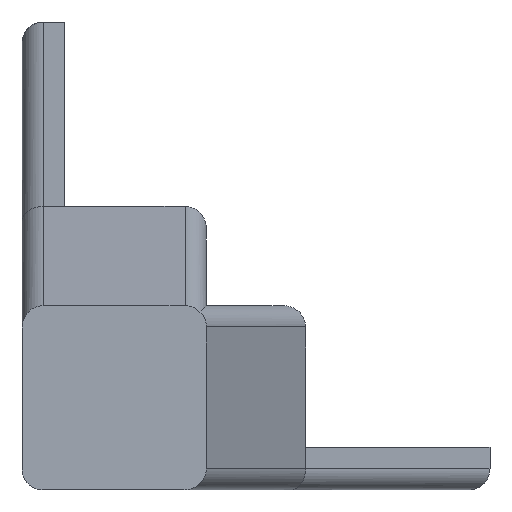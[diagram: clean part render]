
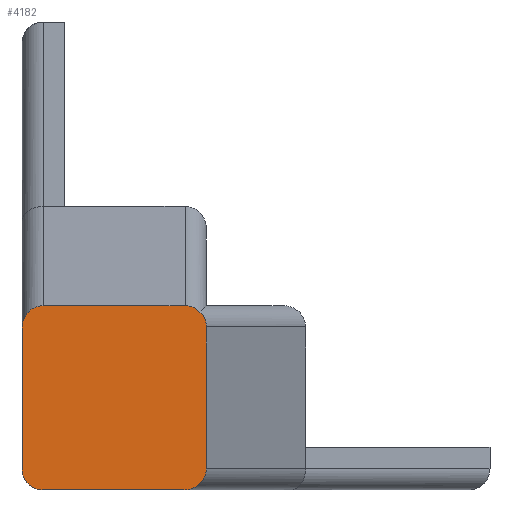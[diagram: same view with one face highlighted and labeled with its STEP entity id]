
A CAD part, front view. The second image highlights one B-rep face of the part: STEP entity #4182.
In plain terms, the highlighted planar face has unit normal (0, -1, 0).
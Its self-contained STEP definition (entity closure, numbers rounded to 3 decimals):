
#20=ELLIPSE('',#4323,3.178,3.);
#24=ELLIPSE('',#4331,3.178,3.);
#28=ELLIPSE('',#4346,3.178,3.);
#34=ELLIPSE('',#4358,3.178,3.);
#100=CIRCLE('',#4341,3.);
#719=FACE_OUTER_BOUND('',#987,.T.);
#987=EDGE_LOOP('',(#3816,#3817,#3818,#3819,#3820,#3821,#3822,#3823,#3824));
#1111=LINE('',#7865,#1432);
#1289=LINE('',#9828,#1610);
#1309=LINE('',#9897,#1630);
#1311=LINE('',#9900,#1632);
#1432=VECTOR('',#4591,10.);
#1610=VECTOR('',#4911,10.);
#1630=VECTOR('',#4993,10.);
#1632=VECTOR('',#4997,10.);
#1784=VERTEX_POINT('',#7853);
#1789=VERTEX_POINT('',#7863);
#2014=VERTEX_POINT('',#9803);
#2015=VERTEX_POINT('',#9804);
#2023=VERTEX_POINT('',#9827);
#2025=VERTEX_POINT('',#9833);
#2030=VERTEX_POINT('',#9851);
#2033=VERTEX_POINT('',#9863);
#2041=VERTEX_POINT('',#9892);
#2261=EDGE_CURVE('',#1784,#1789,#1111,.T.);
#2595=EDGE_CURVE('',#2014,#2015,#20,.T.);
#2607=EDGE_CURVE('',#2015,#2023,#1289,.T.);
#2611=EDGE_CURVE('',#2025,#2014,#24,.T.);
#2619=EDGE_CURVE('',#2030,#1789,#100,.T.);
#2625=EDGE_CURVE('',#2023,#2033,#28,.T.);
#2640=EDGE_CURVE('',#1784,#2041,#34,.T.);
#2642=EDGE_CURVE('',#2030,#2033,#1309,.T.);
#2644=EDGE_CURVE('',#2041,#2025,#1311,.T.);
#3816=ORIENTED_EDGE('',*,*,#2611,.F.);
#3817=ORIENTED_EDGE('',*,*,#2644,.F.);
#3818=ORIENTED_EDGE('',*,*,#2640,.F.);
#3819=ORIENTED_EDGE('',*,*,#2261,.T.);
#3820=ORIENTED_EDGE('',*,*,#2619,.F.);
#3821=ORIENTED_EDGE('',*,*,#2642,.T.);
#3822=ORIENTED_EDGE('',*,*,#2625,.F.);
#3823=ORIENTED_EDGE('',*,*,#2607,.F.);
#3824=ORIENTED_EDGE('',*,*,#2595,.F.);
#3949=PLANE('',#4362);
#4182=ADVANCED_FACE('',(#719),#3949,.T.);
#4323=AXIS2_PLACEMENT_3D('',#9805,#4889,#4890);
#4331=AXIS2_PLACEMENT_3D('',#9835,#4917,#4918);
#4341=AXIS2_PLACEMENT_3D('',#9852,#4939,#4940);
#4346=AXIS2_PLACEMENT_3D('',#9864,#4953,#4954);
#4358=AXIS2_PLACEMENT_3D('',#9893,#4986,#4987);
#4362=AXIS2_PLACEMENT_3D('',#9901,#4998,#4999);
#4591=DIRECTION('',(0.,0.,-1.));
#4889=DIRECTION('center_axis',(0.,1.,0.));
#4890=DIRECTION('ref_axis',(1.,0.,0.));
#4911=DIRECTION('',(0.,0.,-1.));
#4917=DIRECTION('center_axis',(0.,1.,0.));
#4918=DIRECTION('ref_axis',(0.,0.,
1.));
#4939=DIRECTION('center_axis',(0.,1.,0.));
#4940=DIRECTION('ref_axis',(-0.707,0.,-0.707));
#4953=DIRECTION('center_axis',(0.,1.,0.));
#4954=DIRECTION('ref_axis',(1.,0.,0.));
#4986=DIRECTION('center_axis',(0.,1.,0.));
#4987=DIRECTION('ref_axis',(0.,0.,
1.));
#4993=DIRECTION('',(1.,0.,0.));
#4997=DIRECTION('',(1.,0.,0.));
#4998=DIRECTION('center_axis',(0.,-1.,0.));
#4999=DIRECTION('ref_axis',(0.,0.,
1.));
#7853=CARTESIAN_POINT('',(-336.,-40.,-313.178));
#7863=CARTESIAN_POINT('',(-336.,-40.,-333.));
#7865=CARTESIAN_POINT('',(-336.,-40.,-336.));
#9803=CARTESIAN_POINT('',(-310.904,-40.,-310.904));
#9804=CARTESIAN_POINT('',(-310.,-40.,-313.));
#9805=CARTESIAN_POINT('Origin',(-313.178,-40.,-313.));
#9827=CARTESIAN_POINT('',(-310.,-40.,-333.));
#9828=CARTESIAN_POINT('',(-310.,-40.,-326.));
#9833=CARTESIAN_POINT('',(-313.,-40.,-310.));
#9835=CARTESIAN_POINT('Origin',(-313.,-40.,-313.178));
#9851=CARTESIAN_POINT('',(-333.,-40.,-336.));
#9852=CARTESIAN_POINT('Origin',(-333.,-40.,-333.));
#9863=CARTESIAN_POINT('',(-313.178,-40.,-336.));
#9864=CARTESIAN_POINT('Origin',(-313.178,-40.,-333.));
#9892=CARTESIAN_POINT('',(-333.,-40.,-310.));
#9893=CARTESIAN_POINT('Origin',(-333.,-40.,-313.178));
#9897=CARTESIAN_POINT('',(-296.,-40.,-336.));
#9900=CARTESIAN_POINT('',(-313.,-40.,-310.));
#9901=CARTESIAN_POINT('Origin',(-316.,-40.,-316.));
